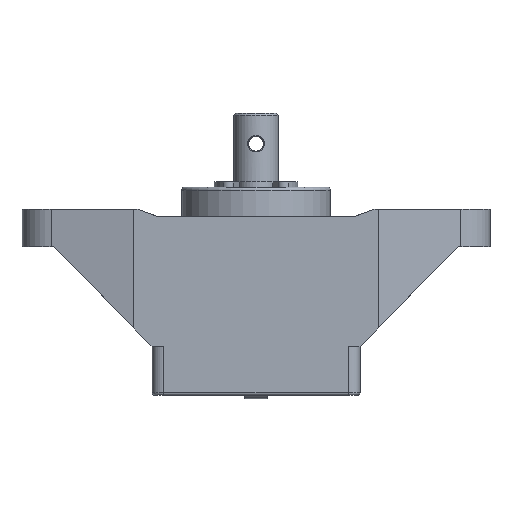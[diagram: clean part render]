
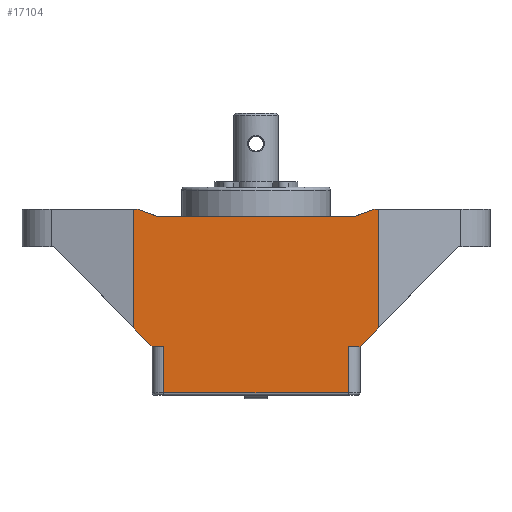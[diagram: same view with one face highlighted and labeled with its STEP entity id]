
A CAD part, front view. The second image highlights one B-rep face of the part: STEP entity #17104.
In plain terms, the highlighted planar face has unit normal (0, -1, 0).
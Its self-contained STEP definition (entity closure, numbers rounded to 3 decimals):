
#43 = ORIENTED_EDGE ( 'NONE', *, *, #3308, .F. ) ;
#166 = CARTESIAN_POINT ( 'NONE',  ( 12.4, -13., -27.7 ) ) ;
#474 = LINE ( 'NONE', #6103, #12754 ) ;
#688 = VECTOR ( 'NONE', #10206, 1000. ) ;
#782 = VERTEX_POINT ( 'NONE', #12585 ) ;
#798 = CARTESIAN_POINT ( 'NONE',  ( -16.5, -13., -18.943 ) ) ;
#889 = VECTOR ( 'NONE', #5543, 1000. ) ;
#1067 = LINE ( 'NONE', #12127, #10717 ) ;
#1095 = VERTEX_POINT ( 'NONE', #8052 ) ;
#1143 = LINE ( 'NONE', #5233, #8376 ) ;
#1200 = ORIENTED_EDGE ( 'NONE', *, *, #6051, .F. ) ;
#1296 = ORIENTED_EDGE ( 'NONE', *, *, #3411, .F. ) ;
#1437 = VERTEX_POINT ( 'NONE', #10745 ) ;
#1443 = CARTESIAN_POINT ( 'NONE',  ( -12.4, -13., -21.5 ) ) ;
#1657 = VERTEX_POINT ( 'NONE', #12063 ) ;
#1706 = CARTESIAN_POINT ( 'NONE',  ( 16.5, -13., -3. ) ) ;
#1758 = LINE ( 'NONE', #6041, #15752 ) ;
#2216 = CARTESIAN_POINT ( 'NONE',  ( 13.136, -13., -4. ) ) ;
#2263 = DIRECTION ( 'NONE',  ( 0., 0., -1. ) ) ;
#2270 = EDGE_CURVE ( 'NONE', #1095, #5735, #13915, .T. ) ;
#2296 = LINE ( 'NONE', #4014, #9945 ) ;
#2369 = DIRECTION ( 'NONE',  ( 0., 0., -1. ) ) ;
#2736 = VECTOR ( 'NONE', #2263, 1000. ) ;
#3114 = VERTEX_POINT ( 'NONE', #1443 ) ;
#3308 = EDGE_CURVE ( 'NONE', #1657, #782, #17722, .T. ) ;
#3411 = EDGE_CURVE ( 'NONE', #3114, #1095, #15997, .T. ) ;
#4014 = CARTESIAN_POINT ( 'NONE',  ( 14., -13., -3. ) ) ;
#4088 = LINE ( 'NONE', #9631, #889 ) ;
#4143 = VERTEX_POINT ( 'NONE', #1706 ) ;
#4166 = CARTESIAN_POINT ( 'NONE',  ( -13.136, -13., -4. ) ) ;
#4254 = EDGE_CURVE ( 'NONE', #782, #7204, #17321, .T. ) ;
#4508 = VERTEX_POINT ( 'NONE', #14312 ) ;
#4737 = CARTESIAN_POINT ( 'NONE',  ( -14., -13., -28. ) ) ;
#5127 = DIRECTION ( 'NONE',  ( -1., 0., 0. ) ) ;
#5233 = CARTESIAN_POINT ( 'NONE',  ( 14., -13., -21.5 ) ) ;
#5389 = AXIS2_PLACEMENT_3D ( 'NONE', #4737, #16426, #2369 ) ;
#5543 = DIRECTION ( 'NONE',  ( 1., 0., 0. ) ) ;
#5735 = VERTEX_POINT ( 'NONE', #798 ) ;
#5861 = VECTOR ( 'NONE', #12103, 1000. ) ;
#6019 = DIRECTION ( 'NONE',  ( 0., 0., 1. ) ) ;
#6041 = CARTESIAN_POINT ( 'NONE',  ( 15.883, -13., -3. ) ) ;
#6051 = EDGE_CURVE ( 'NONE', #15370, #15804, #1758, .T. ) ;
#6103 = CARTESIAN_POINT ( 'NONE',  ( -16.5, -13., -8. ) ) ;
#6171 = CARTESIAN_POINT ( 'NONE',  ( 12.4, -13., -19.237 ) ) ;
#6347 = LINE ( 'NONE', #11599, #12071 ) ;
#6721 = VECTOR ( 'NONE', #14010, 1000. ) ;
#7204 = VERTEX_POINT ( 'NONE', #166 ) ;
#7754 = ORIENTED_EDGE ( 'NONE', *, *, #9469, .F. ) ;
#7808 = ORIENTED_EDGE ( 'NONE', *, *, #14349, .F. ) ;
#8022 = VECTOR ( 'NONE', #15042, 1000. ) ;
#8052 = CARTESIAN_POINT ( 'NONE',  ( -14., -13., -21.5 ) ) ;
#8376 = VECTOR ( 'NONE', #15196, 1000. ) ;
#8736 = EDGE_CURVE ( 'NONE', #13299, #1657, #1143, .T. ) ;
#8746 = ORIENTED_EDGE ( 'NONE', *, *, #17541, .F. ) ;
#8791 = EDGE_CURVE ( 'NONE', #3114, #4508, #1067, .T. ) ;
#9469 = EDGE_CURVE ( 'NONE', #5735, #1437, #474, .T. ) ;
#9512 = VERTEX_POINT ( 'NONE', #15070 ) ;
#9631 = CARTESIAN_POINT ( 'NONE',  ( 12.4, -13., -27.7 ) ) ;
#9681 = EDGE_CURVE ( 'NONE', #4508, #7204, #4088, .T. ) ;
#9926 = DIRECTION ( 'NONE',  ( 0.94, 0., -0.342 ) ) ;
#9932 = CARTESIAN_POINT ( 'NONE',  ( -14., -13., -21.5 ) ) ;
#9945 = VECTOR ( 'NONE', #10659, 1000. ) ;
#10156 = DIRECTION ( 'NONE',  ( 1., 0., 0. ) ) ;
#10206 = DIRECTION ( 'NONE',  ( 1., 0., 0. ) ) ;
#10563 = ORIENTED_EDGE ( 'NONE', *, *, #8791, .T. ) ;
#10659 = DIRECTION ( 'NONE',  ( 1., 0., 0. ) ) ;
#10717 = VECTOR ( 'NONE', #17656, 1000. ) ;
#10745 = CARTESIAN_POINT ( 'NONE',  ( -16.5, -13., -3. ) ) ;
#10748 = CARTESIAN_POINT ( 'NONE',  ( -14., -13., -21.5 ) ) ;
#11283 = LINE ( 'NONE', #12650, #12258 ) ;
#11599 = CARTESIAN_POINT ( 'NONE',  ( -14., -13., -3. ) ) ;
#11626 = FACE_OUTER_BOUND ( 'NONE', #11723, .T. ) ;
#11723 = EDGE_LOOP ( 'NONE', ( #10563, #14702, #14014, #43, #12009, #17843, #16522, #1200, #13437, #7808, #8746, #7754, #14200, #1296 ) ) ;
#12009 = ORIENTED_EDGE ( 'NONE', *, *, #8736, .F. ) ;
#12063 = CARTESIAN_POINT ( 'NONE',  ( 14., -13., -21.5 ) ) ;
#12071 = VECTOR ( 'NONE', #10156, 1000. ) ;
#12103 = DIRECTION ( 'NONE',  ( -1., 0., 0. ) ) ;
#12127 = CARTESIAN_POINT ( 'NONE',  ( -12.4, -13., -19.237 ) ) ;
#12258 = VECTOR ( 'NONE', #9926, 1000. ) ;
#12423 = CARTESIAN_POINT ( 'NONE',  ( 15.883, -13., -3. ) ) ;
#12585 = CARTESIAN_POINT ( 'NONE',  ( 12.4, -13., -21.5 ) ) ;
#12650 = CARTESIAN_POINT ( 'NONE',  ( -15.883, -13., -3. ) ) ;
#12754 = VECTOR ( 'NONE', #6019, 1000. ) ;
#12841 = DIRECTION ( 'NONE',  ( 0.94, 0., 0.342 ) ) ;
#13299 = VERTEX_POINT ( 'NONE', #17128 ) ;
#13437 = ORIENTED_EDGE ( 'NONE', *, *, #15402, .F. ) ;
#13915 = LINE ( 'NONE', #9932, #6721 ) ;
#14010 = DIRECTION ( 'NONE',  ( -0.699, 0., 0.715 ) ) ;
#14014 = ORIENTED_EDGE ( 'NONE', *, *, #4254, .F. ) ;
#14200 = ORIENTED_EDGE ( 'NONE', *, *, #2270, .F. ) ;
#14312 = CARTESIAN_POINT ( 'NONE',  ( -12.4, -13., -27.7 ) ) ;
#14349 = EDGE_CURVE ( 'NONE', #9512, #16287, #11283, .T. ) ;
#14593 = EDGE_CURVE ( 'NONE', #15804, #4143, #2296, .T. ) ;
#14647 = CARTESIAN_POINT ( 'NONE',  ( -8.9, -13., -4. ) ) ;
#14702 = ORIENTED_EDGE ( 'NONE', *, *, #9681, .T. ) ;
#15042 = DIRECTION ( 'NONE',  ( 0., 0., 1. ) ) ;
#15070 = CARTESIAN_POINT ( 'NONE',  ( -15.883, -13., -3. ) ) ;
#15196 = DIRECTION ( 'NONE',  ( -0.699, 0., -0.715 ) ) ;
#15370 = VERTEX_POINT ( 'NONE', #2216 ) ;
#15402 = EDGE_CURVE ( 'NONE', #16287, #15370, #15996, .T. ) ;
#15752 = VECTOR ( 'NONE', #12841, 1000. ) ;
#15804 = VERTEX_POINT ( 'NONE', #12423 ) ;
#15996 = LINE ( 'NONE', #14647, #688 ) ;
#15997 = LINE ( 'NONE', #10748, #16584 ) ;
#16178 = CARTESIAN_POINT ( 'NONE',  ( 14., -13., -21.5 ) ) ;
#16287 = VERTEX_POINT ( 'NONE', #4166 ) ;
#16426 = DIRECTION ( 'NONE',  ( 0., -1., 0. ) ) ;
#16522 = ORIENTED_EDGE ( 'NONE', *, *, #14593, .F. ) ;
#16584 = VECTOR ( 'NONE', #5127, 1000. ) ;
#17104 = ADVANCED_FACE ( 'NONE', ( #11626 ), #17151, .T. ) ;
#17128 = CARTESIAN_POINT ( 'NONE',  ( 16.5, -13., -18.943 ) ) ;
#17151 = PLANE ( 'NONE',  #5389 ) ;
#17321 = LINE ( 'NONE', #6171, #2736 ) ;
#17499 = CARTESIAN_POINT ( 'NONE',  ( 16.5, -13., -8. ) ) ;
#17541 = EDGE_CURVE ( 'NONE', #1437, #9512, #6347, .T. ) ;
#17609 = EDGE_CURVE ( 'NONE', #13299, #4143, #17766, .T. ) ;
#17656 = DIRECTION ( 'NONE',  ( 0., 0., -1. ) ) ;
#17722 = LINE ( 'NONE', #16178, #5861 ) ;
#17766 = LINE ( 'NONE', #17499, #8022 ) ;
#17843 = ORIENTED_EDGE ( 'NONE', *, *, #17609, .T. ) ;
